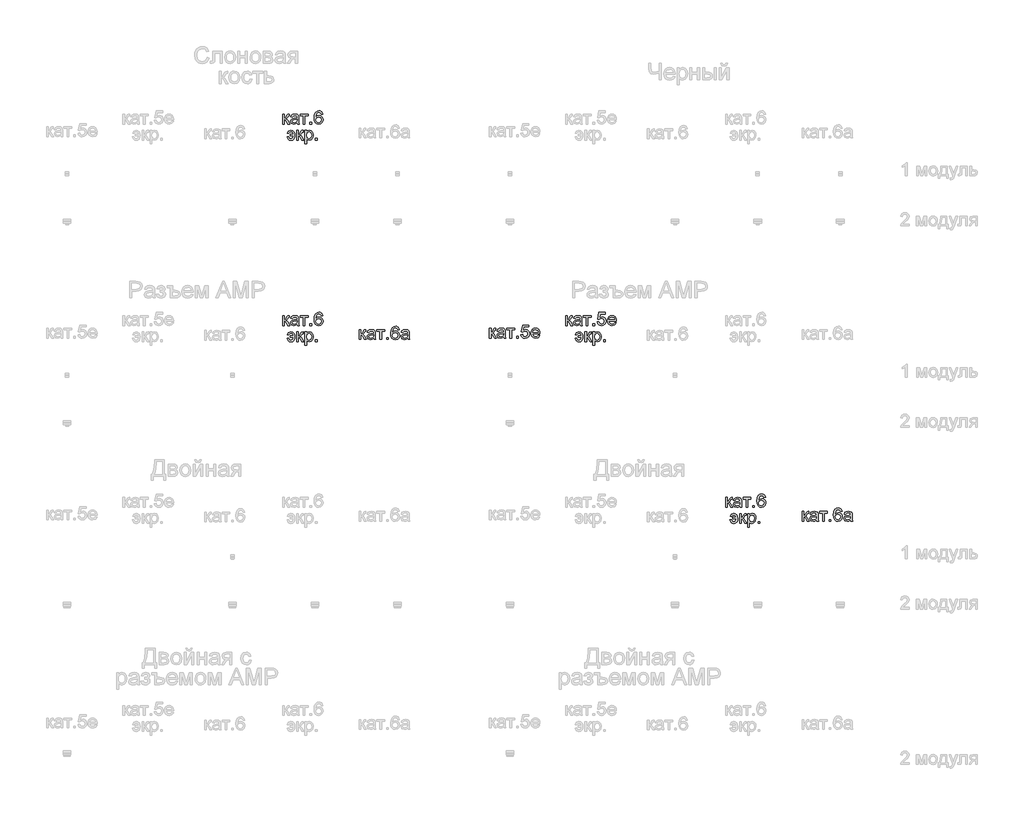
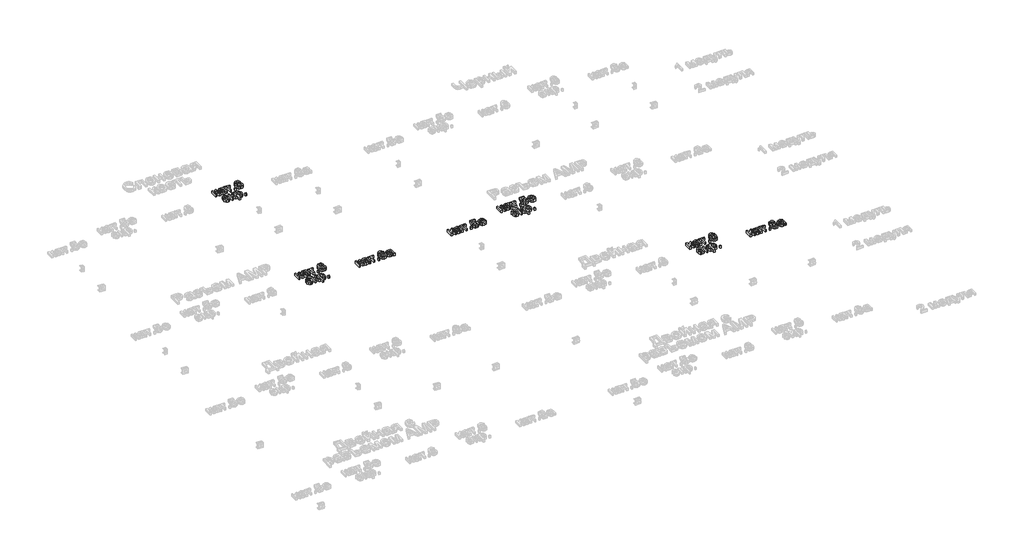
# One storey, part 31 of 47: 7 proxies.
"""IFC4 building model written with IfcOpenShell, lengths in millimetres."""

from ifc_helpers import new_model, si_unit, origin, origin_with_axes, place, context, project, spatial, polyline, outline, extrude, element, save

model = new_model("IFC4")

# Units and contexts
model_context = context("Model", 3, world=origin())
ifc_project = project(units=[si_unit("LENGTHUNIT", "METRE", prefix="MILLI")], contexts=[model_context])

# Site, building, storey
site = spatial("IfcSite", under=ifc_project)
building = spatial("IfcBuilding", under=site)
storey = spatial("IfcBuildingStorey", under=building, Name="Этаж 01", Elevation=0.0)

# Proxies
placement = place(None, origin())
element("IfcBuildingElementProxy", 1, Name="80 мм Arial", ObjectType="80 мм Arial", at=placement, inside=storey, context=model_context, shape_type="SweptSolid", body=[
    extrude(outline(polyline([(4090.9396889, -19958.8197599), (4100.9853199, -19958.8197599), (4100.9853199, -19983.9338374), (4107.7151079, -19982.1287631), (4113.2284327, -19971.6122431), (4117.8097899, -19962.5378206), (4121.8515867, -19959.5849544), (4129.1994164, -19958.8197599), (4131.122213, -19958.8197599), (4131.122213, -19968.924252), (4128.4146015, -19968.8653909), (4123.5095082, -19969.924891), (4120.0563226, -19976.5369568), (4116.0047155, -19983.6885828), (4110.3246175, -19987.1908193), (4116.661998, -19991.1001787), (4122.8816563, -19999.3358303), (4133.6336207, -20017.8378421), (4122.2145636, -20017.8378421), (4111.6784233, -19999.7282377), (4106.3809225, -19992.0664821), (4100.9853199, -19990.2123568), (4100.9853199, -20017.8378421), (4090.9396889, -20017.8378421), (4090.9396889, -19958.8197599)])), origin_with_axes(), (0.0, 0.0, 1.0), 20.0),
    extrude(outline(polyline([(4177.5832564, -20010.3036188), (4167.8417412, -20017.1118883), (4157.0799666, -20019.093546), (4142.4922192, -20014.3257953), (4137.4007324, -20002.1415436), (4139.3235289, -19994.1952925), (4144.375775, -19988.4269029), (4151.4096787, -19985.1306802), (4160.101504, -19983.6199114), (4177.5243953, -19980.1667258), (4177.5832564, -19977.9300033), (4174.8167838, -19970.5135022), (4163.7116527, -19967.609687), (4153.5482994, -19969.5422938), (4148.7020673, -19976.3996142), (4138.6564362, -19975.1439103), (4143.0023489, -19965.3337237), (4151.7530353, -19959.5849544), (4165.0065973, -19957.564056), (4177.1810388, -19959.34951), (4184.0579795, -19963.8327652), (4187.1383781, -19970.6508448), (4187.6288874, -19979.440772), (4187.6288874, -19991.9389496), (4188.1390171, -20009.3912715), (4190.1402952, -20017.8378421), (4180.0946642, -20017.8378421), (4177.5832564, -20010.3036188)]), holes=[polyline([(4177.5832564, -19990.2123568), (4161.3768283, -19993.2927554), (4152.7340539, -19994.9212463), (4148.8197895, -19997.5699967), (4147.4463634, -20001.4352102), (4150.4384703, -20006.8700535), (4159.2185872, -20009.047915), (4169.3819405, -20006.6444193), (4175.9351451, -20000.8269786), (4177.5243953, -19993.0573109), (4177.5832564, -19990.2123568)])]), origin_with_axes(), (0.0, 0.0, 1.0), 20.0),
    extrude(outline(polyline([(4196.4188146, -19958.8197599), (4244.1355619, -19958.8197599), (4244.1355619, -19968.8653909), (4225.3000037, -19968.8653909), (4225.3000037, -20017.8378421), (4215.2543727, -20017.8378421), (4215.2543727, -19968.8653909), (4196.4188146, -19968.8653909), (4196.4188146, -19958.8197599)])), origin_with_axes(), (0.0, 0.0, 1.0), 20.0),
    extrude(outline(polyline([(4255.4368968, -20017.8378421), (4255.4368968, -20007.7922111), (4265.4825278, -20007.7922111), (4265.4825278, -20017.8378421), (4255.4368968, -20017.8378421)])), origin_with_axes(), (0.0, 0.0, 1.0), 20.0),
    extrude(outline(polyline([(4333.2905372, -19958.8197599), (4323.2449061, -19960.0754638), (4319.4385538, -19951.6975645), (4309.3733024, -19947.518425), (4300.30869, -19949.9513512), (4293.4513696, -19959.0846349), (4290.5966053, -19976.9882253), (4299.4552038, -19968.9733029), (4310.4328025, -19966.3539831), (4319.713239, -19968.1443422), (4327.5025271, -19973.5154193), (4332.7853126, -19981.7216404), (4334.546241, -19992.0174311), (4331.230398, -20005.8792247), (4322.1069245, -20015.6894112), (4308.9416542, -20019.093546), (4297.54467, -20016.8372031), (4288.4677949, -20010.0681744), (4282.5301795, -19998.1193672), (4280.5509743, -19980.3236888), (4282.7484561, -19960.3158133), (4289.3409015, -19946.6355082), (4298.3417476, -19939.7634725), (4310.0011543, -19937.472794), (4318.8156069, -19938.8903659), (4325.8740361, -19943.1430818), (4333.2905372, -19958.8197599)]), holes=[polyline([(4290.5966053, -19991.8604681), (4292.9216196, -20000.5621036), (4299.1020371, -20006.8798637), (4308.1568392, -20009.047915), (4319.9977344, -20004.5548495), (4324.50061, -19992.3509775), (4320.0565955, -19980.6670453), (4307.7448114, -19976.3996142), (4295.5899903, -19980.6670453), (4290.5966053, -19991.8604681)])]), origin_with_axes(), (0.0, 0.0, 1.0), 20.0),
    extrude(outline(polyline([(4135.5171766, -20079.0022839), (4154.3527347, -20079.0022839), (4149.8106183, -20069.0253242), (4140.2653068, -20065.1895413), (4132.122852, -20067.700949), (4127.9829533, -20075.2351723), (4117.9373223, -20073.9794684), (4124.8338834, -20060.4119804), (4139.6570753, -20055.1439103), (4149.9111727, -20057.1942393), (4157.7568694, -20063.3452262), (4162.7379916, -20073.0867415), (4164.3983657, -20085.9086553), (4163.0273922, -20098.6717079), (4158.2866195, -20108.7075288), (4150.5390247, -20115.0350991), (4140.1475846, -20116.6734002), (4131.2399352, -20115.2043248), (4124.2158417, -20110.7970985), (4116.6816184, -20095.3264343), (4126.7272494, -20094.0707305), (4131.0535417, -20103.4885095), (4139.9906216, -20106.6277692), (4149.9381508, -20102.2328057), (4154.3527347, -20089.047915), (4135.5171766, -20089.047915), (4135.5171766, -20079.0022839)])), origin_with_axes(), (0.0, 0.0, 1.0), 20.0),
    extrude(outline(polyline([(4175.6997006, -20056.3996142), (4185.7453316, -20056.3996142), (4185.7453316, -20081.5136917), (4192.4751196, -20079.7086174), (4197.9884444, -20069.1920974), (4202.5698015, -20060.1176749), (4206.6115984, -20057.1648087), (4213.9594281, -20056.3996142), (4215.8822247, -20056.3996142), (4215.8822247, -20066.5041063), (4213.1746132, -20066.4452452), (4208.2695199, -20067.5047453), (4204.8163343, -20074.116811), (4200.7647272, -20081.268437), (4195.0846292, -20084.7706736), (4201.4220097, -20088.680033), (4207.641668, -20096.9156846), (4218.3936324, -20115.4176964), (4206.9745753, -20115.4176964), (4196.438435, -20097.308092), (4191.1409342, -20089.6463363), (4185.7453316, -20087.7922111), (4185.7453316, -20115.4176964), (4175.6997006, -20115.4176964), (4175.6997006, -20056.3996142)])), origin_with_axes(), (0.0, 0.0, 1.0), 20.0),
    extrude(outline(polyline([(4224.6721518, -20138.0203662), (4224.6721518, -20056.3996142), (4234.7177828, -20056.3996142), (4234.7177828, -20066.2490414), (4241.6633949, -20057.9201931), (4251.0419332, -20055.1439103), (4263.7755553, -20059.0287441), (4272.0945935, -20069.9769123), (4274.9003069, -20085.4573867), (4271.7316166, -20101.7324861), (4262.5296617, -20112.8179969), (4249.8254701, -20116.6734002), (4241.0845939, -20114.0933212), (4234.7177828, -20107.5695471), (4234.7177828, -20138.0203662), (4224.6721518, -20138.0203662)]), holes=[polyline([(4234.7177828, -20086.3795442), (4239.0636955, -20101.6834352), (4249.609646, -20106.6277692), (4260.3714206, -20101.5068519), (4264.8546759, -20085.63397), (4260.4793327, -20070.2908383), (4250.0216738, -20065.1895413), (4239.3580011, -20070.6145744), (4234.7177828, -20086.3795442)])]), origin_with_axes(), (0.0, 0.0, 1.0), 20.0),
    extrude(outline(polyline([(4288.7130495, -20115.4176964), (4288.7130495, -20105.3720654), (4298.7586805, -20105.3720654), (4298.7586805, -20115.4176964), (4288.7130495, -20115.4176964)])), origin_with_axes(), (0.0, 0.0, 1.0), 20.0),
])
element("IfcBuildingElementProxy", 2, Name="80 мм Arial", ObjectType="80 мм Arial", at=placement, inside=storey, context=model_context, shape_type="SweptSolid", body=[
    extrude(outline(polyline([(4090.9396889, -21178.8197599), (4100.9853199, -21178.8197599), (4100.9853199, -21203.9338374), (4107.7151079, -21202.1287631), (4113.2284327, -21191.6122431), (4117.8097899, -21182.5378206), (4121.8515867, -21179.5849544), (4129.1994164, -21178.8197599), (4131.122213, -21178.8197599), (4131.122213, -21188.924252), (4128.4146015, -21188.8653909), (4123.5095082, -21189.924891), (4120.0563226, -21196.5369568), (4116.0047155, -21203.6885828), (4110.3246175, -21207.1908193), (4116.661998, -21211.1001787), (4122.8816563, -21219.3358303), (4133.6336207, -21237.8378421), (4122.2145636, -21237.8378421), (4111.6784233, -21219.7282377), (4106.3809225, -21212.0664821), (4100.9853199, -21210.2123568), (4100.9853199, -21237.8378421), (4090.9396889, -21237.8378421), (4090.9396889, -21178.8197599)])), origin_with_axes(), (0.0, 0.0, 1.0), 20.0),
    extrude(outline(polyline([(4177.5832564, -21230.3036188), (4167.8417412, -21237.1118883), (4157.0799666, -21239.093546), (4142.4922192, -21234.3257953), (4137.4007324, -21222.1415436), (4139.3235289, -21214.1952925), (4144.375775, -21208.4269029), (4151.4096787, -21205.1306802), (4160.101504, -21203.6199114), (4177.5243953, -21200.1667258), (4177.5832564, -21197.9300033), (4174.8167838, -21190.5135022), (4163.7116527, -21187.609687), (4153.5482994, -21189.5422938), (4148.7020673, -21196.3996142), (4138.6564362, -21195.1439103), (4143.0023489, -21185.3337237), (4151.7530353, -21179.5849544), (4165.0065973, -21177.564056), (4177.1810388, -21179.34951), (4184.0579795, -21183.8327652), (4187.1383781, -21190.6508448), (4187.6288874, -21199.440772), (4187.6288874, -21211.9389496), (4188.1390171, -21229.3912715), (4190.1402952, -21237.8378421), (4180.0946642, -21237.8378421), (4177.5832564, -21230.3036188)]), holes=[polyline([(4177.5832564, -21210.2123568), (4161.3768283, -21213.2927554), (4152.7340539, -21214.9212463), (4148.8197895, -21217.5699967), (4147.4463634, -21221.4352102), (4150.4384703, -21226.8700535), (4159.2185872, -21229.047915), (4169.3819405, -21226.6444193), (4175.9351451, -21220.8269786), (4177.5243953, -21213.0573109), (4177.5832564, -21210.2123568)])]), origin_with_axes(), (0.0, 0.0, 1.0), 20.0),
    extrude(outline(polyline([(4196.4188146, -21178.8197599), (4244.1355619, -21178.8197599), (4244.1355619, -21188.8653909), (4225.3000037, -21188.8653909), (4225.3000037, -21237.8378421), (4215.2543727, -21237.8378421), (4215.2543727, -21188.8653909), (4196.4188146, -21188.8653909), (4196.4188146, -21178.8197599)])), origin_with_axes(), (0.0, 0.0, 1.0), 20.0),
    extrude(outline(polyline([(4255.4368968, -21237.8378421), (4255.4368968, -21227.7922111), (4265.4825278, -21227.7922111), (4265.4825278, -21237.8378421), (4255.4368968, -21237.8378421)])), origin_with_axes(), (0.0, 0.0, 1.0), 20.0),
    extrude(outline(polyline([(4333.2905372, -21178.8197599), (4323.2449061, -21180.0754638), (4319.4385538, -21171.6975645), (4309.3733024, -21167.518425), (4300.30869, -21169.9513512), (4293.4513696, -21179.0846349), (4290.5966053, -21196.9882253), (4299.4552038, -21188.9733029), (4310.4328025, -21186.3539831), (4319.713239, -21188.1443422), (4327.5025271, -21193.5154193), (4332.7853126, -21201.7216404), (4334.546241, -21212.0174311), (4331.230398, -21225.8792247), (4322.1069245, -21235.6894112), (4308.9416542, -21239.093546), (4297.54467, -21236.8372031), (4288.4677949, -21230.0681744), (4282.5301795, -21218.1193672), (4280.5509743, -21200.3236888), (4282.7484561, -21180.3158133), (4289.3409015, -21166.6355082), (4298.3417476, -21159.7634725), (4310.0011543, -21157.472794), (4318.8156069, -21158.8903659), (4325.8740361, -21163.1430818), (4333.2905372, -21178.8197599)]), holes=[polyline([(4290.5966053, -21211.8604681), (4292.9216196, -21220.5621036), (4299.1020371, -21226.8798637), (4308.1568392, -21229.047915), (4319.9977344, -21224.5548495), (4324.50061, -21212.3509775), (4320.0565955, -21200.6670453), (4307.7448114, -21196.3996142), (4295.5899903, -21200.6670453), (4290.5966053, -21211.8604681)])]), origin_with_axes(), (0.0, 0.0, 1.0), 20.0),
    extrude(outline(polyline([(4135.5171766, -21299.0022839), (4154.3527347, -21299.0022839), (4149.8106183, -21289.0253242), (4140.2653068, -21285.1895413), (4132.122852, -21287.700949), (4127.9829533, -21295.2351723), (4117.9373223, -21293.9794684), (4124.8338834, -21280.4119804), (4139.6570753, -21275.1439103), (4149.9111727, -21277.1942393), (4157.7568694, -21283.3452262), (4162.7379916, -21293.0867415), (4164.3983657, -21305.9086553), (4163.0273922, -21318.6717079), (4158.2866195, -21328.7075288), (4150.5390247, -21335.0350991), (4140.1475846, -21336.6734002), (4131.2399352, -21335.2043248), (4124.2158417, -21330.7970985), (4116.6816184, -21315.3264343), (4126.7272494, -21314.0707305), (4131.0535417, -21323.4885095), (4139.9906216, -21326.6277692), (4149.9381508, -21322.2328057), (4154.3527347, -21309.047915), (4135.5171766, -21309.047915), (4135.5171766, -21299.0022839)])), origin_with_axes(), (0.0, 0.0, 1.0), 20.0),
    extrude(outline(polyline([(4175.6997006, -21276.3996142), (4185.7453316, -21276.3996142), (4185.7453316, -21301.5136917), (4192.4751196, -21299.7086174), (4197.9884444, -21289.1920974), (4202.5698015, -21280.1176749), (4206.6115984, -21277.1648087), (4213.9594281, -21276.3996142), (4215.8822247, -21276.3996142), (4215.8822247, -21286.5041063), (4213.1746132, -21286.4452452), (4208.2695199, -21287.5047453), (4204.8163343, -21294.116811), (4200.7647272, -21301.268437), (4195.0846292, -21304.7706736), (4201.4220097, -21308.680033), (4207.641668, -21316.9156846), (4218.3936324, -21335.4176964), (4206.9745753, -21335.4176964), (4196.438435, -21317.308092), (4191.1409342, -21309.6463363), (4185.7453316, -21307.7922111), (4185.7453316, -21335.4176964), (4175.6997006, -21335.4176964), (4175.6997006, -21276.3996142)])), origin_with_axes(), (0.0, 0.0, 1.0), 20.0),
    extrude(outline(polyline([(4224.6721518, -21358.0203662), (4224.6721518, -21276.3996142), (4234.7177828, -21276.3996142), (4234.7177828, -21286.2490414), (4241.6633949, -21277.9201931), (4251.0419332, -21275.1439103), (4263.7755553, -21279.0287441), (4272.0945935, -21289.9769123), (4274.9003069, -21305.4573867), (4271.7316166, -21321.7324861), (4262.5296617, -21332.8179969), (4249.8254701, -21336.6734002), (4241.0845939, -21334.0933212), (4234.7177828, -21327.5695471), (4234.7177828, -21358.0203662), (4224.6721518, -21358.0203662)]), holes=[polyline([(4234.7177828, -21306.3795442), (4239.0636955, -21321.6834352), (4249.609646, -21326.6277692), (4260.3714206, -21321.5068519), (4264.8546759, -21305.63397), (4260.4793327, -21290.2908383), (4250.0216738, -21285.1895413), (4239.3580011, -21290.6145744), (4234.7177828, -21306.3795442)])]), origin_with_axes(), (0.0, 0.0, 1.0), 20.0),
    extrude(outline(polyline([(4288.7130495, -21335.4176964), (4288.7130495, -21325.3720654), (4298.7586805, -21325.3720654), (4298.7586805, -21335.4176964), (4288.7130495, -21335.4176964)])), origin_with_axes(), (0.0, 0.0, 1.0), 20.0),
])
element("IfcBuildingElementProxy", 3, Name="80 мм Arial", ObjectType="80 мм Arial", at=placement, inside=storey, context=model_context, shape_type="SweptSolid", body=[
    extrude(outline(polyline([(4554.3437127, -21263.42412), (4564.3893437, -21263.42412), (4564.3893437, -21288.5381975), (4571.1191317, -21286.7331232), (4576.6324565, -21276.2166032), (4581.2138137, -21267.1421807), (4585.2556105, -21264.1893145), (4592.6034402, -21263.42412), (4594.5262368, -21263.42412), (4594.5262368, -21273.5286121), (4591.8186253, -21273.469751), (4586.913532, -21274.5292512), (4583.4603464, -21281.1413169), (4579.4087393, -21288.2929429), (4573.7286413, -21291.7951795), (4580.0660218, -21295.7045388), (4586.2856801, -21303.9401904), (4597.0376445, -21322.4422022), (4585.6185874, -21322.4422022), (4575.0824471, -21304.3325979), (4569.7849463, -21296.6708422), (4564.3893437, -21294.8167169), (4564.3893437, -21322.4422022), (4554.3437127, -21322.4422022), (4554.3437127, -21263.42412)])), origin_with_axes(), (0.0, 0.0, 1.0), 20.0),
    extrude(outline(polyline([(4640.9872802, -21314.9079789), (4631.245765, -21321.7162484), (4620.4839904, -21323.6979061), (4605.896243, -21318.9301554), (4600.8047562, -21306.7459037), (4602.7275527, -21298.7996526), (4607.7797988, -21293.031263), (4614.8137026, -21289.7350403), (4623.5055278, -21288.2242716), (4640.9284191, -21284.7710859), (4640.9872802, -21282.5343634), (4638.2208076, -21275.1178623), (4627.1156765, -21272.2140471), (4616.9523232, -21274.1466539), (4612.1060911, -21281.0039743), (4602.0604601, -21279.7482704), (4606.4063727, -21269.9380839), (4615.1570591, -21264.1893145), (4628.4106211, -21262.1684161), (4640.5850626, -21263.9538701), (4647.4620034, -21268.4371253), (4650.5424019, -21275.255205), (4651.0329113, -21284.0451321), (4651.0329113, -21296.5433097), (4651.543041, -21313.9956316), (4653.544319, -21322.4422022), (4643.498688, -21322.4422022), (4640.9872802, -21314.9079789)]), holes=[polyline([(4640.9872802, -21294.8167169), (4624.7808521, -21297.8971155), (4616.1380777, -21299.5256065), (4612.2238133, -21302.1743568), (4610.8503872, -21306.0395703), (4613.8424941, -21311.4744137), (4622.622611, -21313.6522751), (4632.7859643, -21311.2487794), (4639.3391689, -21305.4313387), (4640.9284191, -21297.661671), (4640.9872802, -21294.8167169)])]), origin_with_axes(), (0.0, 0.0, 1.0), 20.0),
    extrude(outline(polyline([(4659.8228384, -21263.42412), (4707.5395857, -21263.42412), (4707.5395857, -21273.469751), (4688.7040276, -21273.469751), (4688.7040276, -21322.4422022), (4678.6583965, -21322.4422022), (4678.6583965, -21273.469751), (4659.8228384, -21273.469751), (4659.8228384, -21263.42412)])), origin_with_axes(), (0.0, 0.0, 1.0), 20.0),
    extrude(outline(polyline([(4718.8409206, -21322.4422022), (4718.8409206, -21312.3965712), (4728.8865516, -21312.3965712), (4728.8865516, -21322.4422022), (4718.8409206, -21322.4422022)])), origin_with_axes(), (0.0, 0.0, 1.0), 20.0),
    extrude(outline(polyline([(4796.694561, -21263.42412), (4786.64893, -21264.6798239), (4782.8425776, -21256.3019246), (4772.7773262, -21252.1227851), (4763.7127138, -21254.5557114), (4756.8553934, -21263.688995), (4754.0006292, -21281.5925855), (4762.8592276, -21273.5776631), (4773.8368263, -21270.9583433), (4783.1172628, -21272.7487023), (4790.9065509, -21278.1197794), (4796.1893364, -21286.3260005), (4797.9502648, -21296.6217912), (4794.6344218, -21310.4835848), (4785.5109483, -21320.2937714), (4772.345678, -21323.6979061), (4760.9486938, -21321.4415632), (4751.8718187, -21314.6725345), (4745.9342033, -21302.7237273), (4743.9549981, -21284.9280489), (4746.1524799, -21264.9201734), (4752.7449253, -21251.2398683), (4761.7457714, -21244.3678326), (4773.4051781, -21242.0771541), (4782.2196307, -21243.494726), (4789.2780599, -21247.7474419), (4796.694561, -21263.42412)]), holes=[polyline([(4754.0006292, -21296.4648283), (4756.3256434, -21305.1664637), (4762.5060609, -21311.4842238), (4771.5608631, -21313.6522751), (4783.4017582, -21309.1592096), (4787.9046338, -21296.9553376), (4783.4606193, -21285.2714054), (4771.1488352, -21281.0039743), (4758.9940141, -21285.2714054), (4754.0006292, -21296.4648283)])]), origin_with_axes(), (0.0, 0.0, 1.0), 20.0),
    extrude(outline(polyline([(4846.922716, -21314.9079789), (4837.1812008, -21321.7162484), (4826.4194262, -21323.6979061), (4811.8316788, -21318.9301554), (4806.740192, -21306.7459037), (4808.6629885, -21298.7996526), (4813.7152346, -21293.031263), (4820.7491384, -21289.7350403), (4829.4409636, -21288.2242716), (4846.8638549, -21284.7710859), (4846.922716, -21282.5343634), (4844.1562434, -21275.1178623), (4833.0511123, -21272.2140471), (4822.887759, -21274.1466539), (4818.0415269, -21281.0039743), (4807.9958959, -21279.7482704), (4812.3418085, -21269.9380839), (4821.0924949, -21264.1893145), (4834.3460569, -21262.1684161), (4846.5204984, -21263.9538701), (4853.3974392, -21268.4371253), (4856.4778377, -21275.255205), (4856.9683471, -21284.0451321), (4856.9683471, -21296.5433097), (4857.4784768, -21313.9956316), (4859.4797548, -21322.4422022), (4849.4341238, -21322.4422022), (4846.922716, -21314.9079789)]), holes=[polyline([(4846.922716, -21294.8167169), (4830.7162879, -21297.8971155), (4822.0735135, -21299.5256065), (4818.1592491, -21302.1743568), (4816.785823, -21306.0395703), (4819.7779299, -21311.4744137), (4828.5580468, -21313.6522751), (4838.7214001, -21311.2487794), (4845.2746047, -21305.4313387), (4846.8638549, -21297.661671), (4846.922716, -21294.8167169)])]), origin_with_axes(), (0.0, 0.0, 1.0), 20.0),
])
element("IfcBuildingElementProxy", 4, Name="80 мм Arial", ObjectType="80 мм Arial", at=placement, inside=storey, context=model_context, shape_type="SweptSolid", body=[
    extrude(outline(polyline([(5341.6064135, -21254.963684), (5351.6520445, -21254.963684), (5351.6520445, -21280.0777615), (5358.3818324, -21278.2726872), (5363.8951573, -21267.7561672), (5368.4765144, -21258.6817447), (5372.5183112, -21255.7288785), (5379.866141, -21254.963684), (5381.7889375, -21254.963684), (5381.7889375, -21265.0681761), (5379.081326, -21265.009315), (5374.1762328, -21266.0688151), (5370.7230471, -21272.6808809), (5366.6714401, -21279.8325069), (5360.9913421, -21283.3347434), (5367.3287226, -21287.2441028), (5373.5483808, -21295.4797544), (5384.3003453, -21313.9817662), (5372.8812881, -21313.9817662), (5362.3451478, -21295.8721618), (5357.0476471, -21288.2104062), (5351.6520445, -21286.3562809), (5351.6520445, -21313.9817662), (5341.6064135, -21313.9817662), (5341.6064135, -21254.963684)])), origin_with_axes(), (0.0, 0.0, 1.0), 20.0),
    extrude(outline(polyline([(5428.249981, -21306.4475429), (5418.5084657, -21313.2558124), (5407.7466911, -21315.2374701), (5393.1589437, -21310.4697194), (5388.0674569, -21298.2854677), (5389.9902535, -21290.3392166), (5395.0424995, -21284.570827), (5402.0764033, -21281.2746043), (5410.7682285, -21279.7638355), (5428.1911198, -21276.3106499), (5428.249981, -21274.0739274), (5425.4835084, -21266.6574263), (5414.3783772, -21263.7536111), (5404.2150239, -21265.6862179), (5399.3687918, -21272.5435383), (5389.3231608, -21271.2878344), (5393.6690734, -21261.4776478), (5402.4197598, -21255.7288785), (5415.6733218, -21253.7079801), (5427.8477633, -21255.4934341), (5434.7247041, -21259.9766893), (5437.8051026, -21266.7947689), (5438.295612, -21275.5846961), (5438.295612, -21288.0828737), (5438.8057417, -21305.5351956), (5440.8070197, -21313.9817662), (5430.7613887, -21313.9817662), (5428.249981, -21306.4475429)]), holes=[polyline([(5428.249981, -21286.3562809), (5412.0435528, -21289.4366795), (5403.4007785, -21291.0651704), (5399.486514, -21293.7139208), (5398.1130879, -21297.5791343), (5401.1051948, -21303.0139776), (5409.8853118, -21305.1918391), (5420.048665, -21302.7883434), (5426.6018696, -21296.9709027), (5428.1911198, -21289.201235), (5428.249981, -21286.3562809)])]), origin_with_axes(), (0.0, 0.0, 1.0), 20.0),
    extrude(outline(polyline([(5447.0855391, -21254.963684), (5494.8022864, -21254.963684), (5494.8022864, -21265.009315), (5475.9667283, -21265.009315), (5475.9667283, -21313.9817662), (5465.9210973, -21313.9817662), (5465.9210973, -21265.009315), (5447.0855391, -21265.009315), (5447.0855391, -21254.963684)])), origin_with_axes(), (0.0, 0.0, 1.0), 20.0),
    extrude(outline(polyline([(5506.1036213, -21313.9817662), (5506.1036213, -21303.9361352), (5516.1492523, -21303.9361352), (5516.1492523, -21313.9817662), (5506.1036213, -21313.9817662)])), origin_with_axes(), (0.0, 0.0, 1.0), 20.0),
    extrude(outline(polyline([(5532.4734027, -21292.6348003), (5542.5190338, -21291.3790964), (5547.58109, -21301.7288432), (5558.0779896, -21305.1918391), (5570.6742691, -21300.3750375), (5575.1673346, -21287.5923644), (5570.9587645, -21275.6631776), (5558.2349526, -21271.2878344), (5549.4155949, -21273.0340476), (5543.7747376, -21277.5663538), (5533.7291066, -21276.3106499), (5542.5190338, -21234.872422), (5581.4458539, -21234.872422), (5581.4458539, -21244.918053), (5550.6418682, -21244.918053), (5546.3450065, -21267.0498338), (5561.0406659, -21261.2422034), (5570.4265619, -21263.0423726), (5578.2183026, -21268.4428803), (5583.4642998, -21276.6736268), (5585.2129656, -21286.9645125), (5583.6384306, -21297.0101435), (5578.9148258, -21305.6038669), (5569.8698338, -21312.8290693), (5558.0387489, -21315.2374701), (5548.1721537, -21313.6899131), (5540.3117418, -21309.0472424), (5534.9234968, -21301.849018), (5532.4734027, -21292.6348003)])), origin_with_axes(), (0.0, 0.0, 1.0), 20.0),
    extrude(outline(polyline([(5637.8348062, -21296.4019119), (5647.6842334, -21297.6576158), (5638.4724683, -21310.6266824), (5621.314452, -21315.2374701), (5609.5275129, -21313.2484548), (5600.4579954, -21307.2814088), (5594.6748905, -21297.7238346), (5592.7471888, -21284.9632344), (5594.6945109, -21271.7734386), (5600.5364769, -21261.9092961), (5609.4833671, -21255.7583091), (5620.7454612, -21253.7079801), (5631.6568412, -21255.753404), (5640.3756445, -21261.8896757), (5646.0925307, -21271.7341979), (5647.9981594, -21284.9043733), (5647.9392983, -21287.6119848), (5602.7928198, -21287.6119848), (5608.5710197, -21300.6595329), (5621.5106558, -21305.1918391), (5631.360083, -21303.0924591), (5637.8348062, -21296.4019119)]), holes=[polyline([(5602.7928198, -21277.5663538), (5637.9525284, -21277.5663538), (5633.9303519, -21268.4625007), (5620.7062205, -21263.7536111), (5608.3355752, -21267.5109126), (5602.7928198, -21277.5663538)])]), origin_with_axes(), (0.0, 0.0, 1.0), 20.0),
])
element("IfcBuildingElementProxy", 5, Name="80 мм Arial", ObjectType="80 мм Arial", at=placement, inside=storey, context=model_context, shape_type="SweptSolid", body=[
    extrude(outline(polyline([(5804.2827356, -21178.8197599), (5814.3283666, -21178.8197599), (5814.3283666, -21203.9338374), (5821.0581546, -21202.1287631), (5826.5714794, -21191.6122431), (5831.1528365, -21182.5378206), (5835.1946334, -21179.5849544), (5842.5424631, -21178.8197599), (5844.4652597, -21178.8197599), (5844.4652597, -21188.924252), (5841.7576482, -21188.8653909), (5836.8525549, -21189.924891), (5833.3993693, -21196.5369568), (5829.3477622, -21203.6885828), (5823.6676642, -21207.1908193), (5830.0050447, -21211.1001787), (5836.224703, -21219.3358303), (5846.9766674, -21237.8378421), (5835.5576103, -21237.8378421), (5825.02147, -21219.7282377), (5819.7239692, -21212.0664821), (5814.3283666, -21210.2123568), (5814.3283666, -21237.8378421), (5804.2827356, -21237.8378421), (5804.2827356, -21178.8197599)])), origin_with_axes(), (0.0, 0.0, 1.0), 20.0),
    extrude(outline(polyline([(5890.9263031, -21230.3036188), (5881.1847879, -21237.1118883), (5870.4230133, -21239.093546), (5855.8352659, -21234.3257953), (5850.7437791, -21222.1415436), (5852.6665756, -21214.1952925), (5857.7188217, -21208.4269029), (5864.7527254, -21205.1306802), (5873.4445507, -21203.6199114), (5890.867442, -21200.1667258), (5890.9263031, -21197.9300033), (5888.1598305, -21190.5135022), (5877.0546994, -21187.609687), (5866.8913461, -21189.5422938), (5862.045114, -21196.3996142), (5851.9994829, -21195.1439103), (5856.3453956, -21185.3337237), (5865.096082, -21179.5849544), (5878.349644, -21177.564056), (5890.5240855, -21179.34951), (5897.4010262, -21183.8327652), (5900.4814248, -21190.6508448), (5900.9719341, -21199.440772), (5900.9719341, -21211.9389496), (5901.4820638, -21229.3912715), (5903.4833419, -21237.8378421), (5893.4377109, -21237.8378421), (5890.9263031, -21230.3036188)]), holes=[polyline([(5890.9263031, -21210.2123568), (5874.719875, -21213.2927554), (5866.0771006, -21214.9212463), (5862.1628362, -21217.5699967), (5860.7894101, -21221.4352102), (5863.781517, -21226.8700535), (5872.5616339, -21229.047915), (5882.7249872, -21226.6444193), (5889.2781918, -21220.8269786), (5890.867442, -21213.0573109), (5890.9263031, -21210.2123568)])]), origin_with_axes(), (0.0, 0.0, 1.0), 20.0),
    extrude(outline(polyline([(5909.7618613, -21178.8197599), (5957.4786086, -21178.8197599), (5957.4786086, -21188.8653909), (5938.6430504, -21188.8653909), (5938.6430504, -21237.8378421), (5928.5974194, -21237.8378421), (5928.5974194, -21188.8653909), (5909.7618613, -21188.8653909), (5909.7618613, -21178.8197599)])), origin_with_axes(), (0.0, 0.0, 1.0), 20.0),
    extrude(outline(polyline([(5968.7799435, -21237.8378421), (5968.7799435, -21227.7922111), (5978.8255745, -21227.7922111), (5978.8255745, -21237.8378421), (5968.7799435, -21237.8378421)])), origin_with_axes(), (0.0, 0.0, 1.0), 20.0),
    extrude(outline(polyline([(5995.1497249, -21216.4908762), (6005.1953559, -21215.2351723), (6010.2574122, -21225.5849191), (6020.7543118, -21229.047915), (6033.3505913, -21224.2311134), (6037.8436567, -21211.4484403), (6033.6350867, -21199.5192535), (6020.9112748, -21195.1439103), (6012.0919171, -21196.8901235), (6006.4510598, -21201.4224297), (5996.4054288, -21200.1667258), (6005.1953559, -21158.7284978), (6044.1221761, -21158.7284978), (6044.1221761, -21168.7741289), (6013.3181904, -21168.7741289), (6009.0213287, -21190.9059097), (6023.7169881, -21185.0982793), (6033.1028841, -21186.8984485), (6040.8946247, -21192.2989562), (6046.140622, -21200.5297027), (6047.8892877, -21210.8205884), (6046.3147528, -21220.8662194), (6041.591148, -21229.4599428), (6032.546156, -21236.6851452), (6020.715071, -21239.093546), (6010.8484759, -21237.545989), (6002.9880639, -21232.9033183), (5997.599819, -21225.7050939), (5995.1497249, -21216.4908762)])), origin_with_axes(), (0.0, 0.0, 1.0), 20.0),
    extrude(outline(polyline([(6100.5111283, -21220.2579878), (6110.3605556, -21221.5136917), (6101.1487904, -21234.4827583), (6083.9907742, -21239.093546), (6072.2038351, -21237.1045306), (6063.1343176, -21231.1374847), (6057.3512126, -21221.5799105), (6055.423511, -21208.8193103), (6057.370833, -21195.6295145), (6063.2127991, -21185.7653719), (6072.1596892, -21179.614385), (6083.4217834, -21177.564056), (6094.3331634, -21179.6094799), (6103.0519666, -21185.7457516), (6108.7688528, -21195.5902738), (6110.6744816, -21208.7604492), (6110.6156205, -21211.4680607), (6065.469142, -21211.4680607), (6071.2473419, -21224.5156088), (6084.1869779, -21229.047915), (6094.0364052, -21226.948535), (6100.5111283, -21220.2579878)]), holes=[polyline([(6065.469142, -21201.4224297), (6100.6288506, -21201.4224297), (6096.6066741, -21192.3185766), (6083.3825426, -21187.609687), (6071.0118974, -21191.3669885), (6065.469142, -21201.4224297)])]), origin_with_axes(), (0.0, 0.0, 1.0), 20.0),
    extrude(outline(polyline([(5879.6249682, -21299.0022839), (5898.4605264, -21299.0022839), (5893.91841, -21289.0253242), (5884.3730985, -21285.1895413), (5876.2306437, -21287.700949), (5872.090745, -21295.2351723), (5862.045114, -21293.9794684), (5868.9416751, -21280.4119804), (5883.764867, -21275.1439103), (5894.0189644, -21277.1942393), (5901.8646611, -21283.3452262), (5906.8457833, -21293.0867415), (5908.5061574, -21305.9086553), (5907.1351838, -21318.6717079), (5902.3944112, -21328.7075288), (5894.6468164, -21335.0350991), (5884.2553763, -21336.6734002), (5875.3477269, -21335.2043248), (5868.3236333, -21330.7970985), (5860.7894101, -21315.3264343), (5870.8350411, -21314.0707305), (5875.1613334, -21323.4885095), (5884.0984133, -21326.6277692), (5894.0459424, -21322.2328057), (5898.4605264, -21309.047915), (5879.6249682, -21309.047915), (5879.6249682, -21299.0022839)])), origin_with_axes(), (0.0, 0.0, 1.0), 20.0),
    extrude(outline(polyline([(5919.8074923, -21276.3996142), (5929.8531233, -21276.3996142), (5929.8531233, -21301.5136917), (5936.5829113, -21299.7086174), (5942.0962361, -21289.1920974), (5946.6775932, -21280.1176749), (5950.7193901, -21277.1648087), (5958.0672198, -21276.3996142), (5959.9900164, -21276.3996142), (5959.9900164, -21286.5041063), (5957.2824049, -21286.4452452), (5952.3773116, -21287.5047453), (5948.9241259, -21294.116811), (5944.8725189, -21301.268437), (5939.1924209, -21304.7706736), (5945.5298014, -21308.680033), (5951.7494597, -21316.9156846), (5962.5014241, -21335.4176964), (5951.082367, -21335.4176964), (5940.5462266, -21317.308092), (5935.2487259, -21309.6463363), (5929.8531233, -21307.7922111), (5929.8531233, -21335.4176964), (5919.8074923, -21335.4176964), (5919.8074923, -21276.3996142)])), origin_with_axes(), (0.0, 0.0, 1.0), 20.0),
    extrude(outline(polyline([(5968.7799435, -21358.0203662), (5968.7799435, -21276.3996142), (5978.8255745, -21276.3996142), (5978.8255745, -21286.2490414), (5985.7711866, -21277.9201931), (5995.1497249, -21275.1439103), (6007.883347, -21279.0287441), (6016.2023852, -21289.9769123), (6019.0080986, -21305.4573867), (6015.8394083, -21321.7324861), (6006.6374533, -21332.8179969), (5993.9332618, -21336.6734002), (5985.1923856, -21334.0933212), (5978.8255745, -21327.5695471), (5978.8255745, -21358.0203662), (5968.7799435, -21358.0203662)]), holes=[polyline([(5978.8255745, -21306.3795442), (5983.1714871, -21321.6834352), (5993.7174377, -21326.6277692), (6004.4792123, -21321.5068519), (6008.9624676, -21305.63397), (6004.5871244, -21290.2908383), (5994.1294655, -21285.1895413), (5983.4657927, -21290.6145744), (5978.8255745, -21306.3795442)])]), origin_with_axes(), (0.0, 0.0, 1.0), 20.0),
    extrude(outline(polyline([(6032.8208412, -21335.4176964), (6032.8208412, -21325.3720654), (6042.8664722, -21325.3720654), (6042.8664722, -21335.4176964), (6032.8208412, -21335.4176964)])), origin_with_axes(), (0.0, 0.0, 1.0), 20.0),
])
element("IfcBuildingElementProxy", 6, Name="80 мм Arial", ObjectType="80 мм Arial", at=placement, inside=storey, context=model_context, shape_type="SweptSolid", body=[
    extrude(outline(polyline([(6771.9396889, -22278.8197599), (6781.9853199, -22278.8197599), (6781.9853199, -22303.9338374), (6788.7151079, -22302.1287631), (6794.2284327, -22291.6122431), (6798.8097899, -22282.5378206), (6802.8515867, -22279.5849544), (6810.1994164, -22278.8197599), (6812.122213, -22278.8197599), (6812.122213, -22288.924252), (6809.4146015, -22288.8653909), (6804.5095082, -22289.924891), (6801.0563226, -22296.5369568), (6797.0047155, -22303.6885828), (6791.3246175, -22307.1908193), (6797.661998, -22311.1001787), (6803.8816563, -22319.3358303), (6814.6336207, -22337.8378421), (6803.2145636, -22337.8378421), (6792.6784233, -22319.7282377), (6787.3809225, -22312.0664821), (6781.9853199, -22310.2123568), (6781.9853199, -22337.8378421), (6771.9396889, -22337.8378421), (6771.9396889, -22278.8197599)])), origin_with_axes(), (0.0, 0.0, 1.0), 20.0),
    extrude(outline(polyline([(6858.5832564, -22330.3036188), (6848.8417412, -22337.1118883), (6838.0799666, -22339.093546), (6823.4922192, -22334.3257953), (6818.4007324, -22322.1415436), (6820.3235289, -22314.1952925), (6825.375775, -22308.4269029), (6832.4096787, -22305.1306802), (6841.101504, -22303.6199114), (6858.5243953, -22300.1667258), (6858.5832564, -22297.9300033), (6855.8167838, -22290.5135022), (6844.7116527, -22287.609687), (6834.5482994, -22289.5422938), (6829.7020673, -22296.3996142), (6819.6564362, -22295.1439103), (6824.0023489, -22285.3337237), (6832.7530353, -22279.5849544), (6846.0065973, -22277.564056), (6858.1810388, -22279.34951), (6865.0579795, -22283.8327652), (6868.1383781, -22290.6508448), (6868.6288874, -22299.440772), (6868.6288874, -22311.9389496), (6869.1390171, -22329.3912715), (6871.1402952, -22337.8378421), (6861.0946642, -22337.8378421), (6858.5832564, -22330.3036188)]), holes=[polyline([(6858.5832564, -22310.2123568), (6842.3768283, -22313.2927554), (6833.7340539, -22314.9212463), (6829.8197895, -22317.5699967), (6828.4463634, -22321.4352102), (6831.4384703, -22326.8700535), (6840.2185872, -22329.047915), (6850.3819405, -22326.6444193), (6856.9351451, -22320.8269786), (6858.5243953, -22313.0573109), (6858.5832564, -22310.2123568)])]), origin_with_axes(), (0.0, 0.0, 1.0), 20.0),
    extrude(outline(polyline([(6877.4188146, -22278.8197599), (6925.1355619, -22278.8197599), (6925.1355619, -22288.8653909), (6906.3000037, -22288.8653909), (6906.3000037, -22337.8378421), (6896.2543727, -22337.8378421), (6896.2543727, -22288.8653909), (6877.4188146, -22288.8653909), (6877.4188146, -22278.8197599)])), origin_with_axes(), (0.0, 0.0, 1.0), 20.0),
    extrude(outline(polyline([(6936.4368968, -22337.8378421), (6936.4368968, -22327.7922111), (6946.4825278, -22327.7922111), (6946.4825278, -22337.8378421), (6936.4368968, -22337.8378421)])), origin_with_axes(), (0.0, 0.0, 1.0), 20.0),
    extrude(outline(polyline([(7014.2905372, -22278.8197599), (7004.2449061, -22280.0754638), (7000.4385538, -22271.6975645), (6990.3733024, -22267.518425), (6981.30869, -22269.9513512), (6974.4513696, -22279.0846349), (6971.5966053, -22296.9882253), (6980.4552038, -22288.9733029), (6991.4328025, -22286.3539831), (7000.713239, -22288.1443422), (7008.5025271, -22293.5154193), (7013.7853126, -22301.7216404), (7015.546241, -22312.0174311), (7012.230398, -22325.8792247), (7003.1069245, -22335.6894112), (6989.9416542, -22339.093546), (6978.54467, -22336.8372031), (6969.4677949, -22330.0681744), (6963.5301795, -22318.1193672), (6961.5509743, -22300.3236888), (6963.7484561, -22280.3158133), (6970.3409015, -22266.6355082), (6979.3417476, -22259.7634725), (6991.0011543, -22257.472794), (6999.8156069, -22258.8903659), (7006.8740361, -22263.1430818), (7014.2905372, -22278.8197599)]), holes=[polyline([(6971.5966053, -22311.8604681), (6973.9216196, -22320.5621036), (6980.1020371, -22326.8798637), (6989.1568392, -22329.047915), (7000.9977344, -22324.5548495), (7005.50061, -22312.3509775), (7001.0565955, -22300.6670453), (6988.7448114, -22296.3996142), (6976.5899903, -22300.6670453), (6971.5966053, -22311.8604681)])]), origin_with_axes(), (0.0, 0.0, 1.0), 20.0),
    extrude(outline(polyline([(6816.5171766, -22399.0022839), (6835.3527347, -22399.0022839), (6830.8106183, -22389.0253242), (6821.2653068, -22385.1895413), (6813.122852, -22387.700949), (6808.9829533, -22395.2351723), (6798.9373223, -22393.9794684), (6805.8338834, -22380.4119804), (6820.6570753, -22375.1439103), (6830.9111727, -22377.1942393), (6838.7568694, -22383.3452262), (6843.7379916, -22393.0867415), (6845.3983657, -22405.9086553), (6844.0273922, -22418.6717079), (6839.2866195, -22428.7075288), (6831.5390247, -22435.0350991), (6821.1475846, -22436.6734002), (6812.2399352, -22435.2043248), (6805.2158417, -22430.7970985), (6797.6816184, -22415.3264343), (6807.7272494, -22414.0707305), (6812.0535417, -22423.4885095), (6820.9906216, -22426.6277692), (6830.9381508, -22422.2328057), (6835.3527347, -22409.047915), (6816.5171766, -22409.047915), (6816.5171766, -22399.0022839)])), origin_with_axes(), (0.0, 0.0, 1.0), 20.0),
    extrude(outline(polyline([(6856.6997006, -22376.3996142), (6866.7453316, -22376.3996142), (6866.7453316, -22401.5136917), (6873.4751196, -22399.7086174), (6878.9884444, -22389.1920974), (6883.5698015, -22380.1176749), (6887.6115984, -22377.1648087), (6894.9594281, -22376.3996142), (6896.8822247, -22376.3996142), (6896.8822247, -22386.5041063), (6894.1746132, -22386.4452452), (6889.2695199, -22387.5047453), (6885.8163343, -22394.116811), (6881.7647272, -22401.268437), (6876.0846292, -22404.7706736), (6882.4220097, -22408.680033), (6888.641668, -22416.9156846), (6899.3936324, -22435.4176964), (6887.9745753, -22435.4176964), (6877.438435, -22417.308092), (6872.1409342, -22409.6463363), (6866.7453316, -22407.7922111), (6866.7453316, -22435.4176964), (6856.6997006, -22435.4176964), (6856.6997006, -22376.3996142)])), origin_with_axes(), (0.0, 0.0, 1.0), 20.0),
    extrude(outline(polyline([(6905.6721518, -22458.0203662), (6905.6721518, -22376.3996142), (6915.7177828, -22376.3996142), (6915.7177828, -22386.2490414), (6922.6633949, -22377.9201931), (6932.0419332, -22375.1439103), (6944.7755553, -22379.0287441), (6953.0945935, -22389.9769123), (6955.9003069, -22405.4573867), (6952.7316166, -22421.7324861), (6943.5296617, -22432.8179969), (6930.8254701, -22436.6734002), (6922.0845939, -22434.0933212), (6915.7177828, -22427.5695471), (6915.7177828, -22458.0203662), (6905.6721518, -22458.0203662)]), holes=[polyline([(6915.7177828, -22406.3795442), (6920.0636955, -22421.6834352), (6930.609646, -22426.6277692), (6941.3714206, -22421.5068519), (6945.8546759, -22405.63397), (6941.4793327, -22390.2908383), (6931.0216738, -22385.1895413), (6920.3580011, -22390.6145744), (6915.7177828, -22406.3795442)])]), origin_with_axes(), (0.0, 0.0, 1.0), 20.0),
    extrude(outline(polyline([(6969.7130495, -22435.4176964), (6969.7130495, -22425.3720654), (6979.7586805, -22425.3720654), (6979.7586805, -22435.4176964), (6969.7130495, -22435.4176964)])), origin_with_axes(), (0.0, 0.0, 1.0), 20.0),
])
element("IfcBuildingElementProxy", 7, Name="80 мм Arial", ObjectType="80 мм Arial", at=placement, inside=storey, context=model_context, shape_type="SweptSolid", body=[
    extrude(outline(polyline([(7235.3437127, -22363.42412), (7245.3893437, -22363.42412), (7245.3893437, -22388.5381975), (7252.1191317, -22386.7331232), (7257.6324565, -22376.2166032), (7262.2138137, -22367.1421807), (7266.2556105, -22364.1893145), (7273.6034402, -22363.42412), (7275.5262368, -22363.42412), (7275.5262368, -22373.5286121), (7272.8186253, -22373.469751), (7267.913532, -22374.5292512), (7264.4603464, -22381.1413169), (7260.4087393, -22388.2929429), (7254.7286413, -22391.7951795), (7261.0660218, -22395.7045388), (7267.2856801, -22403.9401904), (7278.0376445, -22422.4422022), (7266.6185874, -22422.4422022), (7256.0824471, -22404.3325979), (7250.7849463, -22396.6708422), (7245.3893437, -22394.8167169), (7245.3893437, -22422.4422022), (7235.3437127, -22422.4422022), (7235.3437127, -22363.42412)])), origin_with_axes(), (0.0, 0.0, 1.0), 20.0),
    extrude(outline(polyline([(7321.9872802, -22414.9079789), (7312.245765, -22421.7162484), (7301.4839904, -22423.6979061), (7286.896243, -22418.9301554), (7281.8047562, -22406.7459037), (7283.7275527, -22398.7996526), (7288.7797988, -22393.031263), (7295.8137026, -22389.7350403), (7304.5055278, -22388.2242716), (7321.9284191, -22384.7710859), (7321.9872802, -22382.5343634), (7319.2208076, -22375.1178623), (7308.1156765, -22372.2140471), (7297.9523232, -22374.1466539), (7293.1060911, -22381.0039743), (7283.0604601, -22379.7482704), (7287.4063727, -22369.9380839), (7296.1570591, -22364.1893145), (7309.4106211, -22362.1684161), (7321.5850626, -22363.9538701), (7328.4620034, -22368.4371253), (7331.5424019, -22375.255205), (7332.0329113, -22384.0451321), (7332.0329113, -22396.5433097), (7332.543041, -22413.9956316), (7334.544319, -22422.4422022), (7324.498688, -22422.4422022), (7321.9872802, -22414.9079789)]), holes=[polyline([(7321.9872802, -22394.8167169), (7305.7808521, -22397.8971155), (7297.1380777, -22399.5256065), (7293.2238133, -22402.1743568), (7291.8503872, -22406.0395703), (7294.8424941, -22411.4744137), (7303.622611, -22413.6522751), (7313.7859643, -22411.2487794), (7320.3391689, -22405.4313387), (7321.9284191, -22397.661671), (7321.9872802, -22394.8167169)])]), origin_with_axes(), (0.0, 0.0, 1.0), 20.0),
    extrude(outline(polyline([(7340.8228384, -22363.42412), (7388.5395857, -22363.42412), (7388.5395857, -22373.469751), (7369.7040276, -22373.469751), (7369.7040276, -22422.4422022), (7359.6583965, -22422.4422022), (7359.6583965, -22373.469751), (7340.8228384, -22373.469751), (7340.8228384, -22363.42412)])), origin_with_axes(), (0.0, 0.0, 1.0), 20.0),
    extrude(outline(polyline([(7399.8409206, -22422.4422022), (7399.8409206, -22412.3965712), (7409.8865516, -22412.3965712), (7409.8865516, -22422.4422022), (7399.8409206, -22422.4422022)])), origin_with_axes(), (0.0, 0.0, 1.0), 20.0),
    extrude(outline(polyline([(7477.694561, -22363.42412), (7467.64893, -22364.6798239), (7463.8425776, -22356.3019246), (7453.7773262, -22352.1227851), (7444.7127138, -22354.5557114), (7437.8553934, -22363.688995), (7435.0006292, -22381.5925855), (7443.8592276, -22373.5776631), (7454.8368263, -22370.9583433), (7464.1172628, -22372.7487023), (7471.9065509, -22378.1197794), (7477.1893364, -22386.3260005), (7478.9502648, -22396.6217912), (7475.6344218, -22410.4835848), (7466.5109483, -22420.2937714), (7453.345678, -22423.6979061), (7441.9486938, -22421.4415632), (7432.8718187, -22414.6725345), (7426.9342033, -22402.7237273), (7424.9549981, -22384.9280489), (7427.1524799, -22364.9201734), (7433.7449253, -22351.2398683), (7442.7457714, -22344.3678326), (7454.4051781, -22342.0771541), (7463.2196307, -22343.494726), (7470.2780599, -22347.7474419), (7477.694561, -22363.42412)]), holes=[polyline([(7435.0006292, -22396.4648283), (7437.3256434, -22405.1664637), (7443.5060609, -22411.4842238), (7452.5608631, -22413.6522751), (7464.4017582, -22409.1592096), (7468.9046338, -22396.9553376), (7464.4606193, -22385.2714054), (7452.1488352, -22381.0039743), (7439.9940141, -22385.2714054), (7435.0006292, -22396.4648283)])]), origin_with_axes(), (0.0, 0.0, 1.0), 20.0),
    extrude(outline(polyline([(7527.922716, -22414.9079789), (7518.1812008, -22421.7162484), (7507.4194262, -22423.6979061), (7492.8316788, -22418.9301554), (7487.740192, -22406.7459037), (7489.6629885, -22398.7996526), (7494.7152346, -22393.031263), (7501.7491384, -22389.7350403), (7510.4409636, -22388.2242716), (7527.8638549, -22384.7710859), (7527.922716, -22382.5343634), (7525.1562434, -22375.1178623), (7514.0511123, -22372.2140471), (7503.887759, -22374.1466539), (7499.0415269, -22381.0039743), (7488.9958959, -22379.7482704), (7493.3418085, -22369.9380839), (7502.0924949, -22364.1893145), (7515.3460569, -22362.1684161), (7527.5204984, -22363.9538701), (7534.3974392, -22368.4371253), (7537.4778377, -22375.255205), (7537.9683471, -22384.0451321), (7537.9683471, -22396.5433097), (7538.4784768, -22413.9956316), (7540.4797548, -22422.4422022), (7530.4341238, -22422.4422022), (7527.922716, -22414.9079789)]), holes=[polyline([(7527.922716, -22394.8167169), (7511.7162879, -22397.8971155), (7503.0735135, -22399.5256065), (7499.1592491, -22402.1743568), (7497.785823, -22406.0395703), (7500.7779299, -22411.4744137), (7509.5580468, -22413.6522751), (7519.7214001, -22411.2487794), (7526.2746047, -22405.4313387), (7527.8638549, -22397.661671), (7527.922716, -22394.8167169)])]), origin_with_axes(), (0.0, 0.0, 1.0), 20.0),
])

save(model, "model.ifc")
